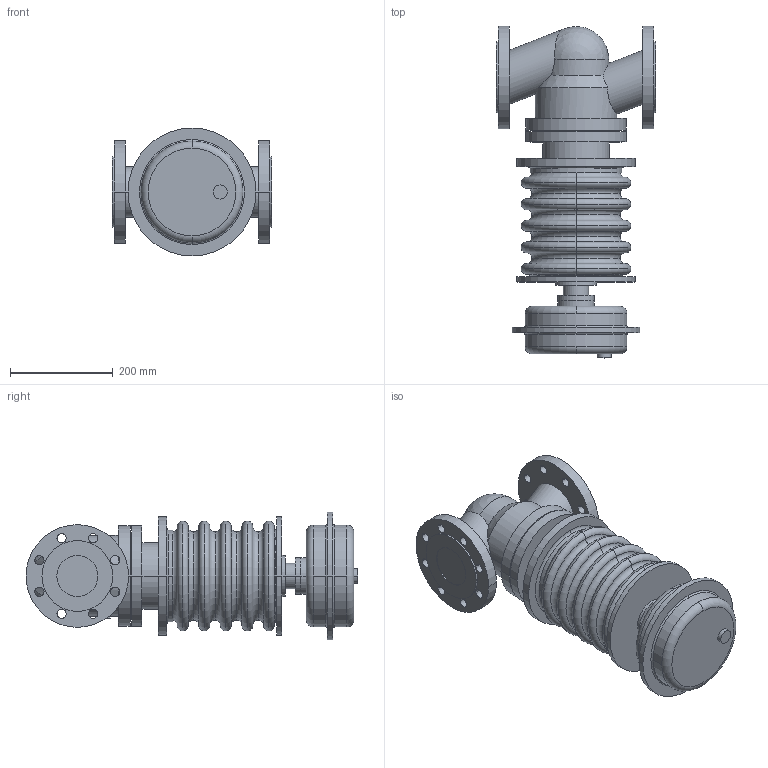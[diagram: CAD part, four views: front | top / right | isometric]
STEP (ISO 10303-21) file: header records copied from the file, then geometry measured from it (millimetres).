
FILE_DESCRIPTION( ( '' ), '1' );
FILE_NAME( 'F:/DE-SHS/TB/OR/04-Sonstiges/daten/files_3d/PREDU/PREDU-PN25-DMA250/c000005369.stp', '2014-06-03T11:16:08', ( '' ), ( '' ), ' ', ' ', ' ' );
FILE_SCHEMA( ( 'CONFIG_CONTROL_DESIGN' ) );
Length unit declared in the file: millimetre
Products named in the file (2): 1; 2
Bounding box: 310 x 647 x 249 mm (x, y, z)
Volume: 17273379.3 mm3; surface area: 848443.4 mm2
Topology: 2 solids, 2 shells, 178 faces, 430 edges, 278 vertices
Faces by surface type: cylinder 84, torus 50, plane 41, cone 2, sphere 1
Entity records: 6006 total; most frequent: CARTESIAN_POINT 1435, DIRECTION 1071, ORIENTED_EDGE 856, AXIS2_PLACEMENT_3D 477, EDGE_CURVE 428, CIRCLE 291, VERTEX_POINT 278, EDGE_LOOP 234
